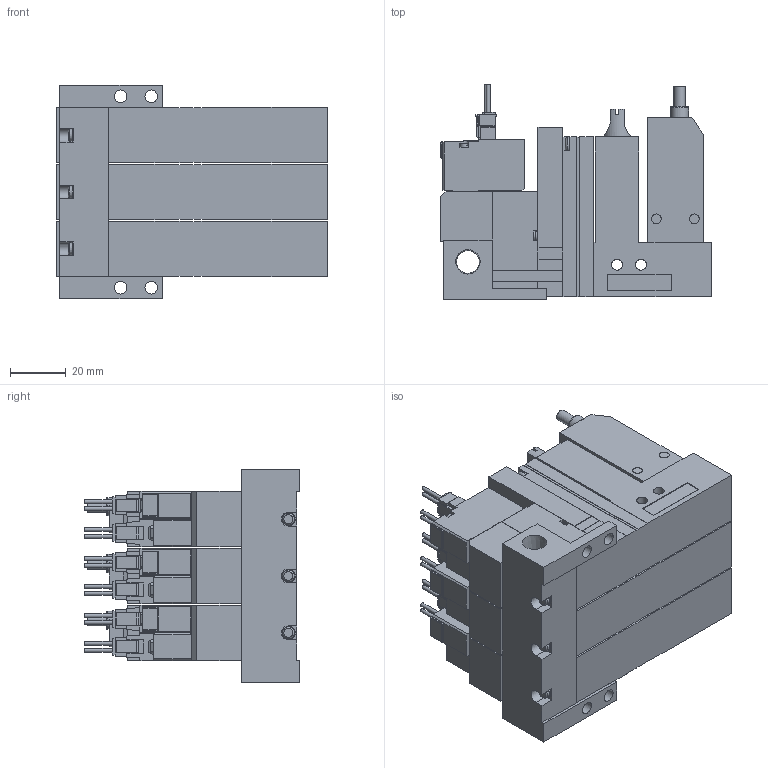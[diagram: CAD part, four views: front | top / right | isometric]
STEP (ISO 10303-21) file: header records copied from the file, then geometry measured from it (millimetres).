
FILE_DESCRIPTION(('STEP AP203'),'1');
FILE_NAME('ABS_ABPLC5ALR303.stp','2025-02-18T23:10:49',(' '),(' '),'Spatial InterOp 3D',' ',' ');
FILE_SCHEMA(('CONFIG_CONTROL_DESIGN'));
Length unit declared in the file: millimetre
Products named in the file (5): BMC22M※※※※ABS_ABPLC5ALR303; Solenoid valve A; Pressure sensor ABSLC; Unit LC; Base MR30R
Assembly tree (10 placements, depth 2):
  BMC22M※※※※ABS_ABPLC5ALR303
    Solenoid valve A  x3
    Pressure sensor ABSLC  x3
    Unit LC  x3
    Base MR30R
Bounding box: 97.6 x 77.45 x 77 mm (x, y, z)
Volume: 310275.1 mm3; surface area: 81950.4 mm2
Topology: 10 solids, 10 shells, 1254 faces, 3362 edges, 2206 vertices
Faces by surface type: plane 1064, cylinder 149, cone 23, torus 18
Full cylindrical faces by diameter (mm): 1.4 x12, 2.5 x3, 3 x12, 3.5 x18, 3.6 x3, 4 x9, 4.134 x3, 4.5 x4, 5.2 x3, 6 x3, 6.5 x3, 6.6 x3, 8.279 x1
Entity records: 14379 total; most frequent: CARTESIAN_POINT 2705, ORIENTED_EDGE 2306, DIRECTION 2274, EDGE_CURVE 1153, LINE 968, VECTOR 968, VERTEX_POINT 793, AXIS2_PLACEMENT_3D 653
